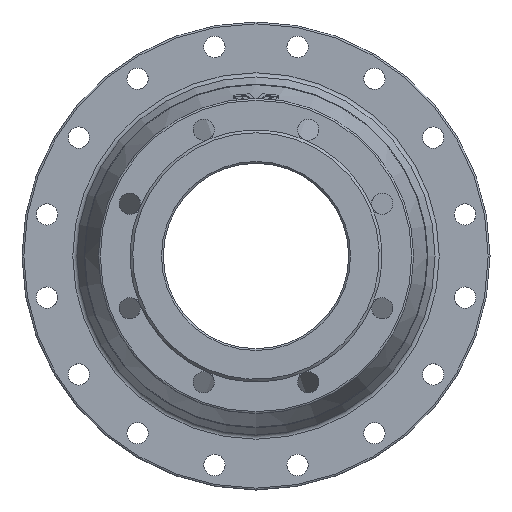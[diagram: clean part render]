
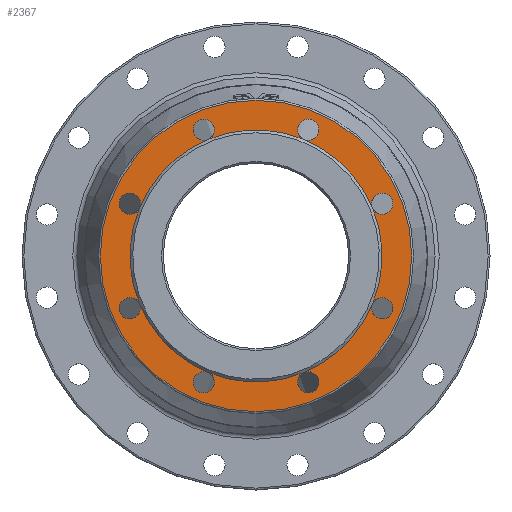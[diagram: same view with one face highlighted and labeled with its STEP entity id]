
A CAD part, left-side view. The second image highlights one B-rep face of the part: STEP entity #2367.
In plain terms, the highlighted planar face has unit normal (-1, 0, 0).
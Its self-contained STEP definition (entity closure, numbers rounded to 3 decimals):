
#1 = DIRECTION ( 'NONE',  ( 0., -1., 0. ) ) ;
#24 = AXIS2_PLACEMENT_3D ( 'NONE', #1801, #616, #365 ) ;
#54 = DIRECTION ( 'NONE',  ( -1., 0., 0. ) ) ;
#69 = AXIS2_PLACEMENT_3D ( 'NONE', #132, #837, #1079 ) ;
#74 = VERTEX_POINT ( 'NONE', #2053 ) ;
#132 = CARTESIAN_POINT ( 'NONE',  ( 3., 0., 0. ) ) ;
#152 = ORIENTED_EDGE ( 'NONE', *, *, #1509, .F. ) ;
#196 = DIRECTION ( 'NONE',  ( 0., -0.707, 0.707 ) ) ;
#248 = CARTESIAN_POINT ( 'NONE',  ( 3., 0., 0. ) ) ;
#254 = ORIENTED_EDGE ( 'NONE', *, *, #2936, .F. ) ;
#288 = CARTESIAN_POINT ( 'NONE',  ( 3., -52.045, 125.648 ) ) ;
#318 = CIRCLE ( 'NONE', #412, 136. ) ;
#321 = DIRECTION ( 'NONE',  ( 0., 0., 1. ) ) ;
#322 = CIRCLE ( 'NONE', #2004, 11.5 ) ;
#334 = DIRECTION ( 'NONE',  ( -1., 0., 0. ) ) ;
#343 = VERTEX_POINT ( 'NONE', #586 ) ;
#365 = DIRECTION ( 'NONE',  ( 0., 0.707, 0.707 ) ) ;
#375 = ORIENTED_EDGE ( 'NONE', *, *, #1293, .F. ) ;
#376 = DIRECTION ( 'NONE',  ( -1., 0., 0. ) ) ;
#412 = AXIS2_PLACEMENT_3D ( 'NONE', #2844, #799, #2187 ) ;
#452 = DIRECTION ( 'NONE',  ( 0., 0., 1. ) ) ;
#472 = AXIS2_PLACEMENT_3D ( 'NONE', #248, #2124, #452 ) ;
#488 = EDGE_CURVE ( 'NONE', #74, #74, #546, .T. ) ;
#510 = CIRCLE ( 'NONE', #1322, 136. ) ;
#516 = CARTESIAN_POINT ( 'NONE',  ( 3., 136.272, -56.446 ) ) ;
#531 = VERTEX_POINT ( 'NONE', #2888 ) ;
#546 = CIRCLE ( 'NONE', #24, 11.5 ) ;
#550 = CIRCLE ( 'NONE', #598, 168. ) ;
#583 = ORIENTED_EDGE ( 'NONE', *, *, #1151, .F. ) ;
#584 = DIRECTION ( 'NONE',  ( -1., 0., 0. ) ) ;
#586 = CARTESIAN_POINT ( 'NONE',  ( 3., 52.045, 125.648 ) ) ;
#598 = AXIS2_PLACEMENT_3D ( 'NONE', #2165, #584, #2427 ) ;
#614 = DIRECTION ( 'NONE',  ( -1., 0., 0. ) ) ;
#616 = DIRECTION ( 'NONE',  ( -1., 0., 0. ) ) ;
#620 = ORIENTED_EDGE ( 'NONE', *, *, #1195, .F. ) ;
#672 = CARTESIAN_POINT ( 'NONE',  ( 3., 125.648, -52.045 ) ) ;
#674 = DIRECTION ( 'NONE',  ( -1., 0., 0. ) ) ;
#713 = CARTESIAN_POINT ( 'NONE',  ( 3., 0., -168. ) ) ;
#797 = EDGE_CURVE ( 'NONE', #531, #1175, #1360, .T. ) ;
#799 = DIRECTION ( 'NONE',  ( -1., 0., 0. ) ) ;
#810 = ORIENTED_EDGE ( 'NONE', *, *, #1556, .F. ) ;
#837 = DIRECTION ( 'NONE',  ( -1., 0., 0. ) ) ;
#870 = DIRECTION ( 'NONE',  ( 0., 0., 1. ) ) ;
#891 = CIRCLE ( 'NONE', #2569, 136. ) ;
#940 = EDGE_CURVE ( 'NONE', #1557, #343, #2809, .T. ) ;
#981 = AXIS2_PLACEMENT_3D ( 'NONE', #1359, #2505, #1109 ) ;
#1001 = CIRCLE ( 'NONE', #472, 136. ) ;
#1038 = DIRECTION ( 'NONE',  ( -1., 0., 0. ) ) ;
#1072 = ORIENTED_EDGE ( 'NONE', *, *, #1475, .F. ) ;
#1079 = DIRECTION ( 'NONE',  ( 0., 0., 1. ) ) ;
#1102 = CARTESIAN_POINT ( 'NONE',  ( 3., 0., 0. ) ) ;
#1109 = DIRECTION ( 'NONE',  ( 0., 0., -1. ) ) ;
#1151 = EDGE_CURVE ( 'NONE', #343, #343, #1369, .T. ) ;
#1163 = EDGE_CURVE ( 'NONE', #1165, #1165, #550, .T. ) ;
#1165 = VERTEX_POINT ( 'NONE', #713 ) ;
#1167 = DIRECTION ( 'NONE',  ( 0., 0., -1. ) ) ;
#1169 = ORIENTED_EDGE ( 'NONE', *, *, #1994, .F. ) ;
#1175 = VERTEX_POINT ( 'NONE', #2848 ) ;
#1186 = EDGE_LOOP ( 'NONE', ( #1811, #1222, #2585, #1966, #1602, #810, #254, #1169, #1072, #620, #152, #2934, #1729, #2885, #375, #583 ) ) ;
#1195 = EDGE_CURVE ( 'NONE', #2898, #2898, #1952, .T. ) ;
#1205 = DIRECTION ( 'NONE',  ( 0., 1., 0. ) ) ;
#1222 = ORIENTED_EDGE ( 'NONE', *, *, #1243, .F. ) ;
#1243 = EDGE_CURVE ( 'NONE', #1557, #1557, #2386, .T. ) ;
#1293 = EDGE_CURVE ( 'NONE', #343, #74, #891, .T. ) ;
#1322 = AXIS2_PLACEMENT_3D ( 'NONE', #1902, #1038, #2145 ) ;
#1344 = AXIS2_PLACEMENT_3D ( 'NONE', #1694, #1503, #2428 ) ;
#1359 = CARTESIAN_POINT ( 'NONE',  ( 3., 136., 0. ) ) ;
#1360 = CIRCLE ( 'NONE', #69, 136. ) ;
#1369 = CIRCLE ( 'NONE', #1859, 11.5 ) ;
#1391 = VERTEX_POINT ( 'NONE', #672 ) ;
#1439 = AXIS2_PLACEMENT_3D ( 'NONE', #2761, #2078, #2359 ) ;
#1475 = EDGE_CURVE ( 'NONE', #2898, #2266, #510, .T. ) ;
#1483 = CIRCLE ( 'NONE', #1878, 11.5 ) ;
#1490 = CARTESIAN_POINT ( 'NONE',  ( 3., 56.446, 136.272 ) ) ;
#1502 = DIRECTION ( 'NONE',  ( 0., 0.707, -0.707 ) ) ;
#1503 = DIRECTION ( 'NONE',  ( -1., 0., 0. ) ) ;
#1509 = EDGE_CURVE ( 'NONE', #1391, #2898, #318, .T. ) ;
#1537 = CIRCLE ( 'NONE', #1344, 136. ) ;
#1556 = EDGE_CURVE ( 'NONE', #531, #531, #2058, .T. ) ;
#1557 = VERTEX_POINT ( 'NONE', #288 ) ;
#1567 = AXIS2_PLACEMENT_3D ( 'NONE', #1706, #334, #1502 ) ;
#1602 = ORIENTED_EDGE ( 'NONE', *, *, #797, .F. ) ;
#1650 = DIRECTION ( 'NONE',  ( -1., 0., 0. ) ) ;
#1694 = CARTESIAN_POINT ( 'NONE',  ( 3., 0., 0. ) ) ;
#1706 = CARTESIAN_POINT ( 'NONE',  ( 3., 56.446, -136.272 ) ) ;
#1729 = ORIENTED_EDGE ( 'NONE', *, *, #2907, .F. ) ;
#1731 = DIRECTION ( 'NONE',  ( 0., -0.707, -0.707 ) ) ;
#1734 = DIRECTION ( 'NONE',  ( -1., 0., 0. ) ) ;
#1801 = CARTESIAN_POINT ( 'NONE',  ( 3., 136.272, 56.446 ) ) ;
#1811 = ORIENTED_EDGE ( 'NONE', *, *, #940, .F. ) ;
#1859 = AXIS2_PLACEMENT_3D ( 'NONE', #1490, #1734, #321 ) ;
#1878 = AXIS2_PLACEMENT_3D ( 'NONE', #516, #1650, #1205 ) ;
#1902 = CARTESIAN_POINT ( 'NONE',  ( 3., 0., 0. ) ) ;
#1952 = CIRCLE ( 'NONE', #1567, 11.5 ) ;
#1966 = ORIENTED_EDGE ( 'NONE', *, *, #2184, .F. ) ;
#1994 = EDGE_CURVE ( 'NONE', #2266, #2266, #322, .T. ) ;
#1995 = DIRECTION ( 'NONE',  ( -1., 0., 0. ) ) ;
#2001 = AXIS2_PLACEMENT_3D ( 'NONE', #2008, #614, #196 ) ;
#2004 = AXIS2_PLACEMENT_3D ( 'NONE', #2285, #54, #1167 ) ;
#2008 = CARTESIAN_POINT ( 'NONE',  ( 3., -56.446, 136.272 ) ) ;
#2026 = CARTESIAN_POINT ( 'NONE',  ( 3., -136.272, 56.446 ) ) ;
#2053 = CARTESIAN_POINT ( 'NONE',  ( 3., 125.648, 52.045 ) ) ;
#2058 = CIRCLE ( 'NONE', #2908, 11.5 ) ;
#2071 = CARTESIAN_POINT ( 'NONE',  ( 3., -52.045, -125.648 ) ) ;
#2078 = DIRECTION ( 'NONE',  ( -1., 0., 0. ) ) ;
#2105 = AXIS2_PLACEMENT_3D ( 'NONE', #1102, #1995, #2905 ) ;
#2124 = DIRECTION ( 'NONE',  ( -1., 0., 0. ) ) ;
#2145 = DIRECTION ( 'NONE',  ( 0., 0., 1. ) ) ;
#2165 = CARTESIAN_POINT ( 'NONE',  ( 3., 0., 0. ) ) ;
#2184 = EDGE_CURVE ( 'NONE', #1175, #1175, #2339, .T. ) ;
#2187 = DIRECTION ( 'NONE',  ( 0., 0., 1. ) ) ;
#2222 = CIRCLE ( 'NONE', #1439, 136. ) ;
#2266 = VERTEX_POINT ( 'NONE', #2071 ) ;
#2285 = CARTESIAN_POINT ( 'NONE',  ( 3., -56.446, -136.272 ) ) ;
#2316 = CARTESIAN_POINT ( 'NONE',  ( 3., 52.045, -125.648 ) ) ;
#2339 = CIRCLE ( 'NONE', #2383, 11.5 ) ;
#2359 = DIRECTION ( 'NONE',  ( 0., 0., 1. ) ) ;
#2367 = ADVANCED_FACE ( 'NONE', ( #2674, #2687 ), #2947, .F. ) ;
#2383 = AXIS2_PLACEMENT_3D ( 'NONE', #2026, #674, #1 ) ;
#2386 = CIRCLE ( 'NONE', #2001, 11.5 ) ;
#2427 = DIRECTION ( 'NONE',  ( 0., 0., -1. ) ) ;
#2428 = DIRECTION ( 'NONE',  ( 0., 0., 1. ) ) ;
#2495 = CARTESIAN_POINT ( 'NONE',  ( 3., 0., 0. ) ) ;
#2499 = EDGE_LOOP ( 'NONE', ( #2925 ) ) ;
#2505 = DIRECTION ( 'NONE',  ( 1., 0., 0. ) ) ;
#2569 = AXIS2_PLACEMENT_3D ( 'NONE', #2495, #376, #870 ) ;
#2585 = ORIENTED_EDGE ( 'NONE', *, *, #2821, .F. ) ;
#2612 = CARTESIAN_POINT ( 'NONE',  ( 3., -136.272, -56.446 ) ) ;
#2674 = FACE_OUTER_BOUND ( 'NONE', #2499, .T. ) ;
#2687 = FACE_BOUND ( 'NONE', #1186, .T. ) ;
#2761 = CARTESIAN_POINT ( 'NONE',  ( 3., 0., 0. ) ) ;
#2804 = EDGE_CURVE ( 'NONE', #1391, #1391, #1483, .T. ) ;
#2809 = CIRCLE ( 'NONE', #2105, 136. ) ;
#2821 = EDGE_CURVE ( 'NONE', #1175, #1557, #1001, .T. ) ;
#2844 = CARTESIAN_POINT ( 'NONE',  ( 3., 0., 0. ) ) ;
#2848 = CARTESIAN_POINT ( 'NONE',  ( 3., -125.648, 52.045 ) ) ;
#2873 = DIRECTION ( 'NONE',  ( -1., 0., 0. ) ) ;
#2885 = ORIENTED_EDGE ( 'NONE', *, *, #488, .F. ) ;
#2888 = CARTESIAN_POINT ( 'NONE',  ( 3., -125.648, -52.045 ) ) ;
#2898 = VERTEX_POINT ( 'NONE', #2316 ) ;
#2905 = DIRECTION ( 'NONE',  ( 0., 0., 1. ) ) ;
#2907 = EDGE_CURVE ( 'NONE', #74, #1391, #2222, .T. ) ;
#2908 = AXIS2_PLACEMENT_3D ( 'NONE', #2612, #2873, #1731 ) ;
#2925 = ORIENTED_EDGE ( 'NONE', *, *, #1163, .T. ) ;
#2934 = ORIENTED_EDGE ( 'NONE', *, *, #2804, .F. ) ;
#2936 = EDGE_CURVE ( 'NONE', #2266, #531, #1537, .T. ) ;
#2947 = PLANE ( 'NONE',  #981 ) ;
